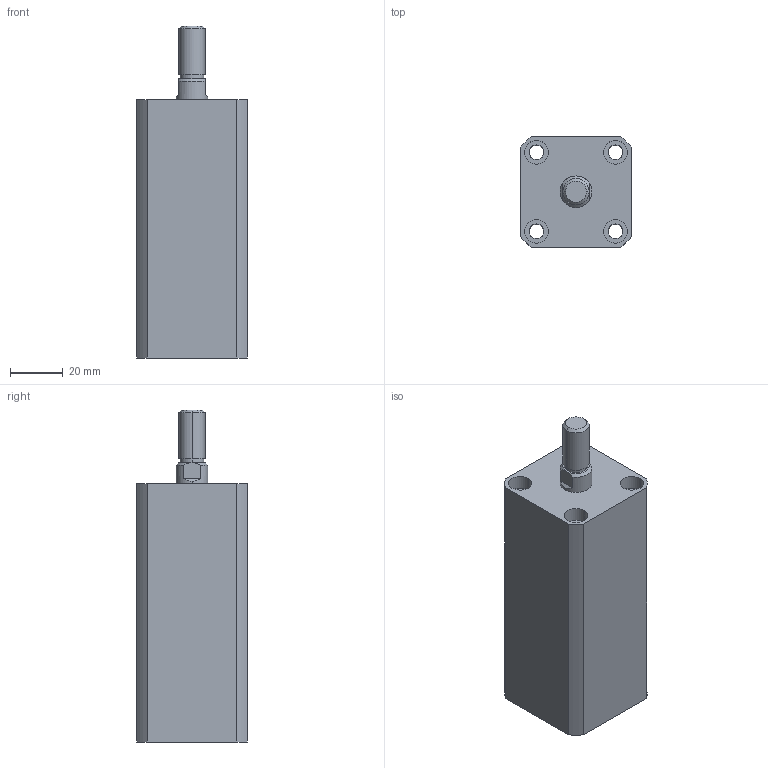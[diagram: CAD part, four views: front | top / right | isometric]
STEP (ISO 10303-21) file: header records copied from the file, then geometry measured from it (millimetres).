
FILE_DESCRIPTION (( 'STEP AP203' ), '1' );
FILE_NAME ('HTB-SDMB20-55W.STEP', '2019-10-08T11:58:14', ( '微软用户' ), ( '微软中国' ), 'SwSTEP 2.0', 'SolidWorks 2012', '' );
FILE_SCHEMA (( 'CONFIG_CONTROL_DESIGN' ));
Length unit declared in the file: millimetre
Products named in the file (3): HTB-SDMB20-55掛极; HTB-SDMB20-55W活塞杆; HTB-SDMB20-55W
Assembly tree (2 placements, depth 2):
  HTB-SDMB20-55W
    HTB-SDMB20-55掛极
    HTB-SDMB20-55W活塞杆
Bounding box: 42 x 42 x 126 mm (x, y, z)
Volume: 149594.2 mm3; surface area: 37209.2 mm2
Topology: 2 solids, 2 shells, 140 faces, 332 edges, 218 vertices
Faces by surface type: plane 66, cylinder 48, bspline 16, torus 6, cone 4
Entity records: 5129 total; most frequent: CARTESIAN_POINT 1587, ORIENTED_EDGE 664, DIRECTION 662, EDGE_CURVE 332, AXIS2_PLACEMENT_3D 241, VERTEX_POINT 218, LINE 180, VECTOR 180
